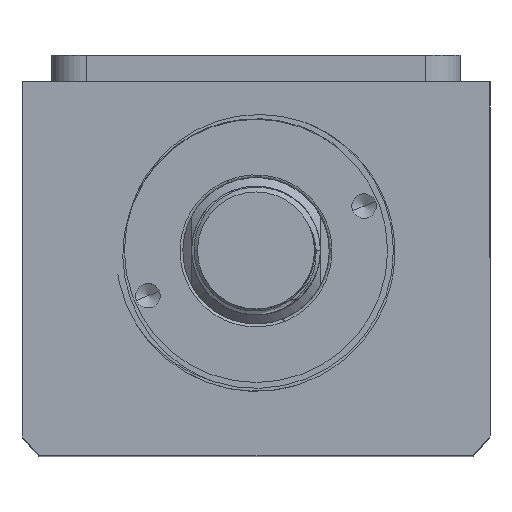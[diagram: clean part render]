
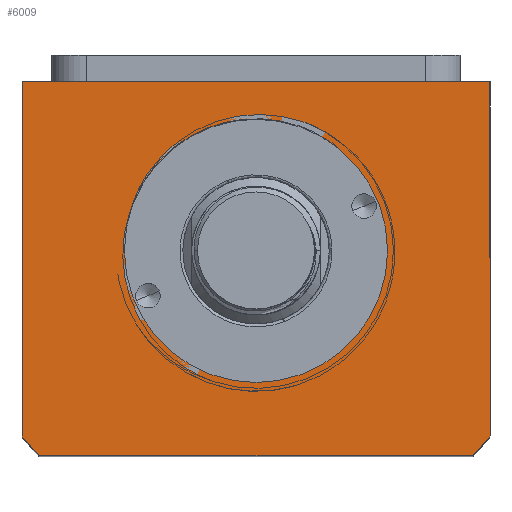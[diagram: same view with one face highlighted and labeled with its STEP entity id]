
A CAD part, top view. The second image highlights one B-rep face of the part: STEP entity #6009.
In plain terms, the highlighted planar face has unit normal (0, 0, 1).
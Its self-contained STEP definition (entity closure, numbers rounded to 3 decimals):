
#249 = DIRECTION ( 'NONE',  ( 1., 0., 0. ) ) ;
#898 = VERTEX_POINT ( 'NONE', #6090 ) ;
#1199 = ORIENTED_EDGE ( 'NONE', *, *, #9827, .T. ) ;
#1909 = FACE_BOUND ( 'NONE', #13134, .T. ) ;
#2144 = CARTESIAN_POINT ( 'NONE',  ( 0., 3., 115. ) ) ;
#2146 = CARTESIAN_POINT ( 'NONE',  ( 0., 0., 115. ) ) ;
#2191 = AXIS2_PLACEMENT_3D ( 'NONE', #2146, #11811, #5389 ) ;
#2236 = AXIS2_PLACEMENT_3D ( 'NONE', #2444, #9923, #3531 ) ;
#2444 = CARTESIAN_POINT ( 'NONE',  ( 0., 3., 115. ) ) ;
#2513 = LINE ( 'NONE', #9594, #13591 ) ;
#2701 = CARTESIAN_POINT ( 'NONE',  ( -37.094, -32., 115. ) ) ;
#2939 = ORIENTED_EDGE ( 'NONE', *, *, #7640, .T. ) ;
#2963 = EDGE_CURVE ( 'NONE', #6808, #8380, #9093, .T. ) ;
#3208 = DIRECTION ( 'NONE',  ( 1., 0., 0. ) ) ;
#3249 = DIRECTION ( 'NONE',  ( 1., 0., 0. ) ) ;
#3531 = DIRECTION ( 'NONE',  ( 1., 0., 0. ) ) ;
#3565 = VECTOR ( 'NONE', #5311, 1000. ) ;
#3591 = ORIENTED_EDGE ( 'NONE', *, *, #10870, .F. ) ;
#4230 = CARTESIAN_POINT ( 'NONE',  ( -40., 32., 115. ) ) ;
#4468 = AXIS2_PLACEMENT_3D ( 'NONE', #6354, #13859, #7430 ) ;
#5102 = ORIENTED_EDGE ( 'NONE', *, *, #13156, .T. ) ;
#5311 = DIRECTION ( 'NONE',  ( 0., -1., 0. ) ) ;
#5389 = DIRECTION ( 'NONE',  ( 1., 0., 0. ) ) ;
#5580 = ORIENTED_EDGE ( 'NONE', *, *, #2963, .T. ) ;
#5635 = CARTESIAN_POINT ( 'NONE',  ( -40., 32., 115. ) ) ;
#5797 = AXIS2_PLACEMENT_3D ( 'NONE', #13096, #6669, #249 ) ;
#5914 = VECTOR ( 'NONE', #12400, 1000. ) ;
#5919 = VECTOR ( 'NONE', #12365, 1000. ) ;
#5952 = CARTESIAN_POINT ( 'NONE',  ( 40., 32., 115. ) ) ;
#6009 = ADVANCED_FACE ( 'NONE', ( #1909, #7580 ), #8522, .T. ) ;
#6090 = CARTESIAN_POINT ( 'NONE',  ( 37.094, -32., 115. ) ) ;
#6178 = EDGE_CURVE ( 'NONE', #12255, #7738, #12294, .T. ) ;
#6354 = CARTESIAN_POINT ( 'NONE',  ( 0., 3., 115. ) ) ;
#6427 = EDGE_CURVE ( 'NONE', #9792, #6808, #10610, .T. ) ;
#6496 = CIRCLE ( 'NONE', #9507, 51. ) ;
#6669 = DIRECTION ( 'NONE',  ( 0., 0., 1. ) ) ;
#6808 = VERTEX_POINT ( 'NONE', #12726 ) ;
#7430 = DIRECTION ( 'NONE',  ( 1., 0., 0. ) ) ;
#7580 = FACE_OUTER_BOUND ( 'NONE', #11354, .T. ) ;
#7582 = CARTESIAN_POINT ( 'NONE',  ( -22.5, 3., 115. ) ) ;
#7640 = EDGE_CURVE ( 'NONE', #8380, #8923, #12104, .T. ) ;
#7738 = VERTEX_POINT ( 'NONE', #7582 ) ;
#8352 = CARTESIAN_POINT ( 'NONE',  ( 40., -28.639, 115. ) ) ;
#8380 = VERTEX_POINT ( 'NONE', #5635 ) ;
#8522 = PLANE ( 'NONE',  #2191 ) ;
#8923 = VERTEX_POINT ( 'NONE', #9509 ) ;
#9093 = LINE ( 'NONE', #11321, #5914 ) ;
#9507 = AXIS2_PLACEMENT_3D ( 'NONE', #2144, #9639, #3249 ) ;
#9509 = CARTESIAN_POINT ( 'NONE',  ( -40., -28.639, 115. ) ) ;
#9594 = CARTESIAN_POINT ( 'NONE',  ( -40., -32., 115. ) ) ;
#9601 = ORIENTED_EDGE ( 'NONE', *, *, #6178, .F. ) ;
#9639 = DIRECTION ( 'NONE',  ( 0., 0., 1. ) ) ;
#9792 = VERTEX_POINT ( 'NONE', #8352 ) ;
#9827 = EDGE_CURVE ( 'NONE', #898, #9792, #11599, .T. ) ;
#9923 = DIRECTION ( 'NONE',  ( 0., 0., 1. ) ) ;
#10610 = LINE ( 'NONE', #5952, #5919 ) ;
#10870 = EDGE_CURVE ( 'NONE', #7738, #12255, #12595, .T. ) ;
#11321 = CARTESIAN_POINT ( 'NONE',  ( -40., 32., 115. ) ) ;
#11354 = EDGE_LOOP ( 'NONE', ( #2939, #5102, #12953, #1199, #11956, #5580 ) ) ;
#11515 = EDGE_CURVE ( 'NONE', #12137, #898, #2513, .T. ) ;
#11599 = CIRCLE ( 'NONE', #4468, 51. ) ;
#11811 = DIRECTION ( 'NONE',  ( 0., 0., 1. ) ) ;
#11956 = ORIENTED_EDGE ( 'NONE', *, *, #6427, .T. ) ;
#12104 = LINE ( 'NONE', #4230, #3565 ) ;
#12137 = VERTEX_POINT ( 'NONE', #2701 ) ;
#12255 = VERTEX_POINT ( 'NONE', #12392 ) ;
#12294 = CIRCLE ( 'NONE', #5797, 22.5 ) ;
#12365 = DIRECTION ( 'NONE',  ( 0., 1., 0. ) ) ;
#12392 = CARTESIAN_POINT ( 'NONE',  ( 22.5, 3., 115. ) ) ;
#12400 = DIRECTION ( 'NONE',  ( -1., 0., 0. ) ) ;
#12595 = CIRCLE ( 'NONE', #2236, 22.5 ) ;
#12726 = CARTESIAN_POINT ( 'NONE',  ( 40., 32., 115. ) ) ;
#12953 = ORIENTED_EDGE ( 'NONE', *, *, #11515, .T. ) ;
#13096 = CARTESIAN_POINT ( 'NONE',  ( 0., 3., 115. ) ) ;
#13134 = EDGE_LOOP ( 'NONE', ( #9601, #3591 ) ) ;
#13156 = EDGE_CURVE ( 'NONE', #8923, #12137, #6496, .T. ) ;
#13591 = VECTOR ( 'NONE', #3208, 1000. ) ;
#13859 = DIRECTION ( 'NONE',  ( 0., 0., 1. ) ) ;
